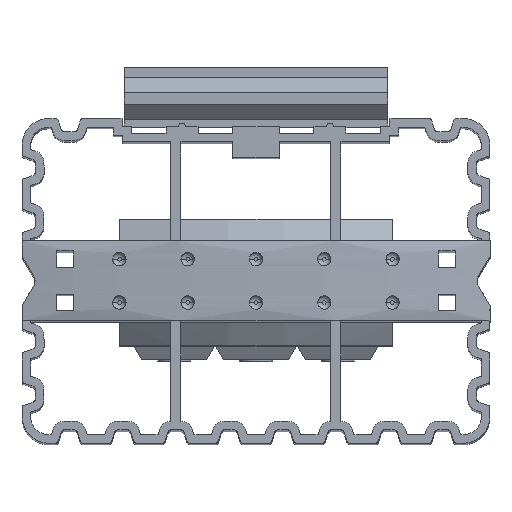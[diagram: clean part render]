
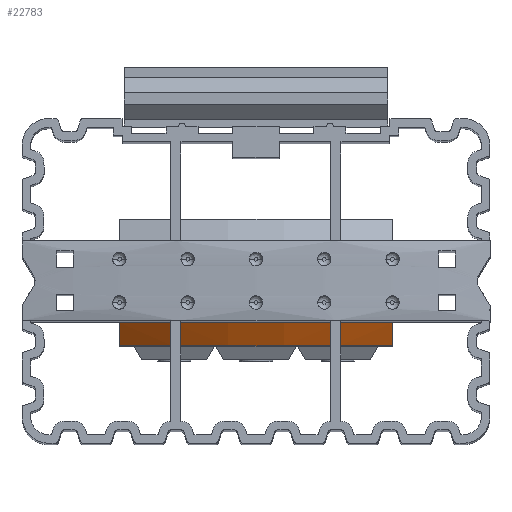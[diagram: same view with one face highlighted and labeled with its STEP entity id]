
A CAD part, top view. The second image highlights one B-rep face of the part: STEP entity #22783.
In plain terms, the highlighted conical face has half-angle 30 degrees and reference radius 54.531 mm.
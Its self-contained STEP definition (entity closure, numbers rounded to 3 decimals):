
#106 = VERTEX_POINT ( 'NONE', #21805 ) ;
#2934 = EDGE_LOOP ( 'NONE', ( #7857, #6642, #11646, #6343 ) ) ;
#3037 = DIRECTION ( 'NONE',  ( 0., 0., -1. ) ) ;
#3056 = FACE_OUTER_BOUND ( 'NONE', #2934, .T. ) ;
#3521 = AXIS2_PLACEMENT_3D ( 'NONE', #14478, #20619, #3037 ) ;
#4791 = VERTEX_POINT ( 'NONE', #20396 ) ;
#5551 = EDGE_CURVE ( 'NONE', #4791, #21866, #18467, .T. ) ;
#6172 = CARTESIAN_POINT ( 'NONE',  ( -20.5, -9.5, -80.188 ) ) ;
#6343 = ORIENTED_EDGE ( 'NONE', *, *, #11909, .F. ) ;
#6642 = ORIENTED_EDGE ( 'NONE', *, *, #5551, .T. ) ;
#6755 = B_SPLINE_CURVE_WITH_KNOTS ( 'NONE', 3,
 ( #10794, #12923, #16688, #14677 ),
 .UNSPECIFIED., .F., .F.,
 ( 4, 4 ),
 ( 0.025, 0.029 ),
 .UNSPECIFIED. ) ;
#7857 = ORIENTED_EDGE ( 'NONE', *, *, #21396, .F. ) ;
#7937 = CARTESIAN_POINT ( 'NONE',  ( -20.5, -6., -78. ) ) ;
#8599 = DIRECTION ( 'NONE',  ( 0., 0., -1. ) ) ;
#8729 = DIRECTION ( 'NONE',  ( 0., 1., 0. ) ) ;
#9139 = CIRCLE ( 'NONE', #3521, 54.531 ) ;
#9579 = CARTESIAN_POINT ( 'NONE',  ( 0., -9.5, -128.531 ) ) ;
#10251 = EDGE_CURVE ( 'NONE', #21866, #106, #16251, .T. ) ;
#10794 = CARTESIAN_POINT ( 'NONE',  ( 20.5, -6., -78. ) ) ;
#11218 = DIRECTION ( 'NONE',  ( 0., 1., 0. ) ) ;
#11247 = VERTEX_POINT ( 'NONE', #14518 ) ;
#11646 = ORIENTED_EDGE ( 'NONE', *, *, #10251, .T. ) ;
#11909 = EDGE_CURVE ( 'NONE', #11247, #106, #6755, .T. ) ;
#12073 = AXIS2_PLACEMENT_3D ( 'NONE', #14744, #8729, #8599 ) ;
#12923 = CARTESIAN_POINT ( 'NONE',  ( 20.5, -7.168, -78.728 ) ) ;
#13119 = CARTESIAN_POINT ( 'NONE',  ( -20.5, -8.334, -79.457 ) ) ;
#14478 = CARTESIAN_POINT ( 'NONE',  ( 0., -6., -128.531 ) ) ;
#14518 = CARTESIAN_POINT ( 'NONE',  ( 20.5, -6., -78. ) ) ;
#14677 = CARTESIAN_POINT ( 'NONE',  ( 20.5, -9.5, -80.188 ) ) ;
#14744 = CARTESIAN_POINT ( 'NONE',  ( 0., -6., -128.531 ) ) ;
#15463 = CARTESIAN_POINT ( 'NONE',  ( -20.5, -7.168, -78.728 ) ) ;
#16251 = CIRCLE ( 'NONE', #23878, 52.511 ) ;
#16688 = CARTESIAN_POINT ( 'NONE',  ( 20.5, -8.334, -79.457 ) ) ;
#18467 = B_SPLINE_CURVE_WITH_KNOTS ( 'NONE', 3,
 ( #7937, #15463, #13119, #6172 ),
 .UNSPECIFIED., .F., .F.,
 ( 4, 4 ),
 ( 0., 0.004 ),
 .UNSPECIFIED. ) ;
#19477 = CARTESIAN_POINT ( 'NONE',  ( -20.5, -9.5, -80.188 ) ) ;
#20396 = CARTESIAN_POINT ( 'NONE',  ( -20.5, -6., -78. ) ) ;
#20619 = DIRECTION ( 'NONE',  ( 0., 1., 0. ) ) ;
#21303 = CONICAL_SURFACE ( 'NONE', #12073, 54.531, 0.524 ) ;
#21396 = EDGE_CURVE ( 'NONE', #4791, #11247, #9139, .T. ) ;
#21805 = CARTESIAN_POINT ( 'NONE',  ( 20.5, -9.5, -80.188 ) ) ;
#21866 = VERTEX_POINT ( 'NONE', #19477 ) ;
#22783 = ADVANCED_FACE ( 'NONE', ( #3056 ), #21303, .T. ) ;
#23878 = AXIS2_PLACEMENT_3D ( 'NONE', #9579, #11218, #24411 ) ;
#24411 = DIRECTION ( 'NONE',  ( 0., 0., 1. ) ) ;
